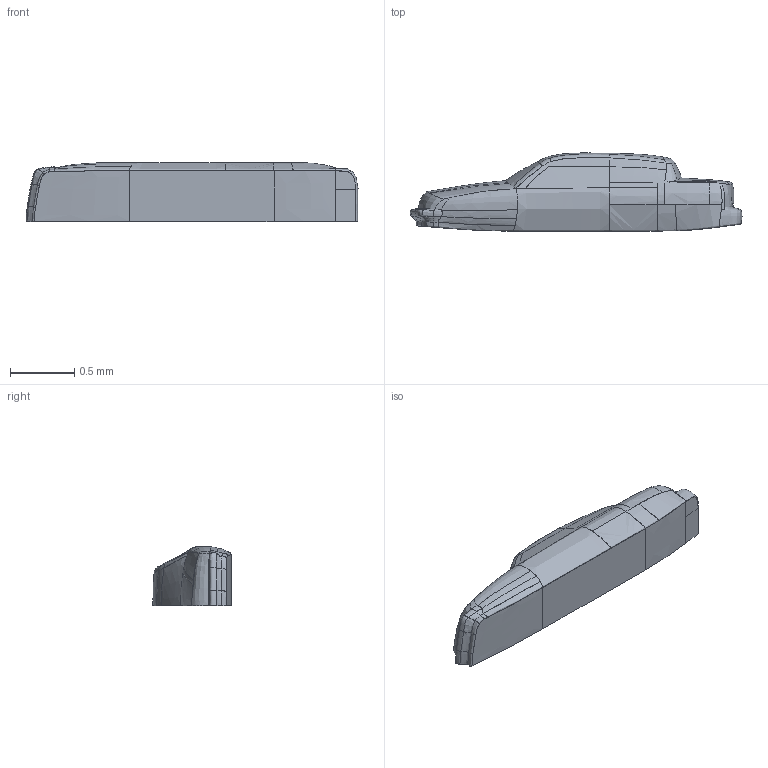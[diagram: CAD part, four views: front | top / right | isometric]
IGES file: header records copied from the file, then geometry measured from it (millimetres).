
Start section: IGES FILE DATA SOURCE = DDN PART ICEM PART NAME = SEDAN ICEM PART SHEET NUMBER = 1
Global section: file name: /home/sdg/geomesh/run/iges/sedan; native system: ICEM SYSTEMS - ICEM IGES; preprocessor: 3.3.01H; date: 971016.201653; units: millimetre
Bounding box: 2.58 x 0.61 x 0.46 mm (x, y, z)
Surface area: 3.3 mm2 (no closed solid volume)
Topology: 0 solids, 0 shells, 73 faces, 292 edges, 292 vertices
Faces by surface type: bspline 73
